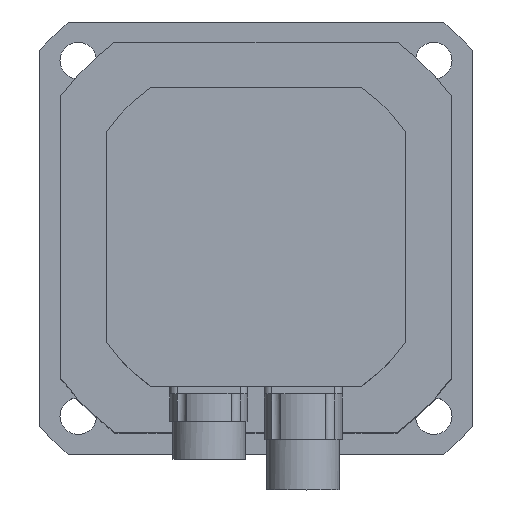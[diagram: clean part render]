
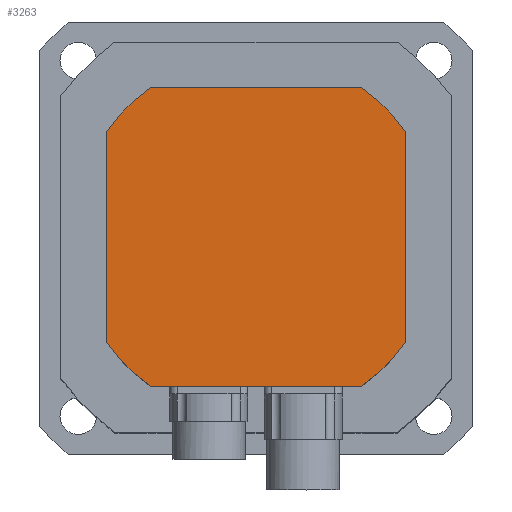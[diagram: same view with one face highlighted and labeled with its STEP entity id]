
A CAD part, top view. The second image highlights one B-rep face of the part: STEP entity #3263.
In plain terms, the highlighted planar face has unit normal (0, 0, 1).
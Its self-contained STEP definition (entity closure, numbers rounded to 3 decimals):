
#662=CIRCLE('',#3471,60.);
#663=CIRCLE('',#3473,60.);
#664=CIRCLE('',#3475,60.);
#665=CIRCLE('',#3477,60.);
#917=VERTEX_POINT('',#5274);
#918=VERTEX_POINT('',#5276);
#921=VERTEX_POINT('',#5285);
#922=VERTEX_POINT('',#5287);
#938=VERTEX_POINT('',#5378);
#939=VERTEX_POINT('',#5380);
#940=VERTEX_POINT('',#5384);
#941=VERTEX_POINT('',#5386);
#1196=VECTOR('',#3990,1.);
#1202=VECTOR('',#3997,1.);
#1215=VECTOR('',#4043,1.);
#1218=VECTOR('',#4047,1.);
#1420=LINE('',#5275,#1196);
#1426=LINE('',#5286,#1202);
#1439=LINE('',#5379,#1215);
#1442=LINE('',#5385,#1218);
#1698=EDGE_CURVE('',#918,#917,#1420,.T.);
#1704=EDGE_CURVE('',#922,#921,#1426,.T.);
#1729=EDGE_CURVE('',#939,#938,#1439,.T.);
#1732=EDGE_CURVE('',#941,#940,#1442,.T.);
#1734=EDGE_CURVE('',#922,#940,#662,.T.);
#1735=EDGE_CURVE('',#939,#921,#663,.T.);
#1736=EDGE_CURVE('',#918,#938,#664,.T.);
#1737=EDGE_CURVE('',#941,#917,#665,.T.);
#2372=ORIENTED_EDGE('',*,*,#1698,.T.);
#2373=ORIENTED_EDGE('',*,*,#1737,.F.);
#2374=ORIENTED_EDGE('',*,*,#1732,.T.);
#2375=ORIENTED_EDGE('',*,*,#1734,.F.);
#2376=ORIENTED_EDGE('',*,*,#1704,.T.);
#2377=ORIENTED_EDGE('',*,*,#1735,.F.);
#2378=ORIENTED_EDGE('',*,*,#1729,.T.);
#2379=ORIENTED_EDGE('',*,*,#1736,.F.);
#2835=EDGE_LOOP('',(#2372,#2373,#2374,#2375,#2376,#2377,#2378,#2379));
#3063=FACE_BOUND('',#2835,.T.);
#3263=ADVANCED_FACE('',(#3063),#5805,.F.);
#3471=AXIS2_PLACEMENT_3D('',#5389,#4051,#4052);
#3473=AXIS2_PLACEMENT_3D('',#5391,#4055,#4056);
#3475=AXIS2_PLACEMENT_3D('',#5393,#4059,#4060);
#3477=AXIS2_PLACEMENT_3D('',#5395,#4063,#4064);
#3478=AXIS2_PLACEMENT_3D('',#5396,#4065,$);
#3990=DIRECTION('',(0.,-1.,0.));
#3997=DIRECTION('',(0.,1.,0.));
#4043=DIRECTION('',(-1.,0.,0.));
#4047=DIRECTION('',(1.,0.,0.));
#4051=DIRECTION('',(0.,0.,-1.));
#4052=DIRECTION('',(-60.,0.,0.));
#4055=DIRECTION('',(0.,0.,-1.));
#4056=DIRECTION('',(-60.,0.,0.));
#4059=DIRECTION('',(0.,0.,-1.));
#4060=DIRECTION('',(-60.,0.,0.));
#4063=DIRECTION('',(0.,0.,-1.));
#4064=DIRECTION('',(-60.,0.,0.));
#4065=DIRECTION('',(0.,0.,-1.));
#5274=CARTESIAN_POINT('',(-49.,-34.627,45.));
#5275=CARTESIAN_POINT('',(-49.,34.627,45.));
#5276=CARTESIAN_POINT('',(-49.,34.627,45.));
#5285=CARTESIAN_POINT('',(49.,34.627,45.));
#5286=CARTESIAN_POINT('',(49.,-34.627,45.));
#5287=CARTESIAN_POINT('',(49.,-34.627,45.));
#5378=CARTESIAN_POINT('',(-34.627,49.,45.));
#5379=CARTESIAN_POINT('',(34.627,49.,45.));
#5380=CARTESIAN_POINT('',(34.627,49.,45.));
#5384=CARTESIAN_POINT('',(34.627,-49.,45.));
#5385=CARTESIAN_POINT('',(-34.627,-49.,45.));
#5386=CARTESIAN_POINT('',(-34.627,-49.,45.));
#5389=CARTESIAN_POINT('',(0.,0.,45.));
#5391=CARTESIAN_POINT('',(0.,0.,45.));
#5393=CARTESIAN_POINT('',(0.,0.,45.));
#5395=CARTESIAN_POINT('',(0.,0.,45.));
#5396=CARTESIAN_POINT('',(0.,0.,45.));
#5805=PLANE('',#3478);
